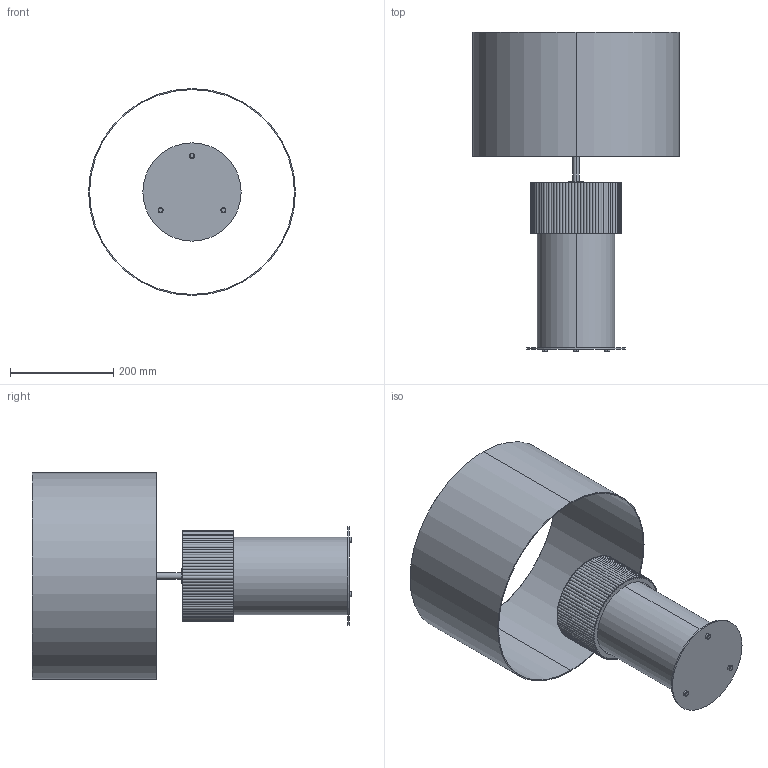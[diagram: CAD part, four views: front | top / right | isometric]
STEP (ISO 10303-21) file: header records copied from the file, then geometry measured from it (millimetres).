
FILE_DESCRIPTION (( 'STEP AP214' ), '1' );
FILE_NAME ('ROCK_NAC141_S.STEP', '2025-03-06T08:33:49', ( '' ), ( '' ), 'SwSTEP 2.0', 'SolidWorks 2018', '' );
FILE_SCHEMA (( 'AUTOMOTIVE_DESIGN' ));
Length unit declared in the file: millimetre
Products named in the file (1): ROCK_NAC141_S
Bounding box: 400 x 618 x 400 mm (x, y, z)
Volume: 1961036.2 mm3; surface area: 1126892.5 mm2
Topology: 9 solids, 9 shells, 180 faces, 477 edges, 316 vertices
Faces by surface type: cylinder 155, plane 19, torus 6
Entity records: 5893 total; most frequent: DIRECTION 1161, CARTESIAN_POINT 974, ORIENTED_EDGE 954, AXIS2_PLACEMENT_3D 503, EDGE_CURVE 477, CIRCLE 322, VERTEX_POINT 316, EDGE_LOOP 187
